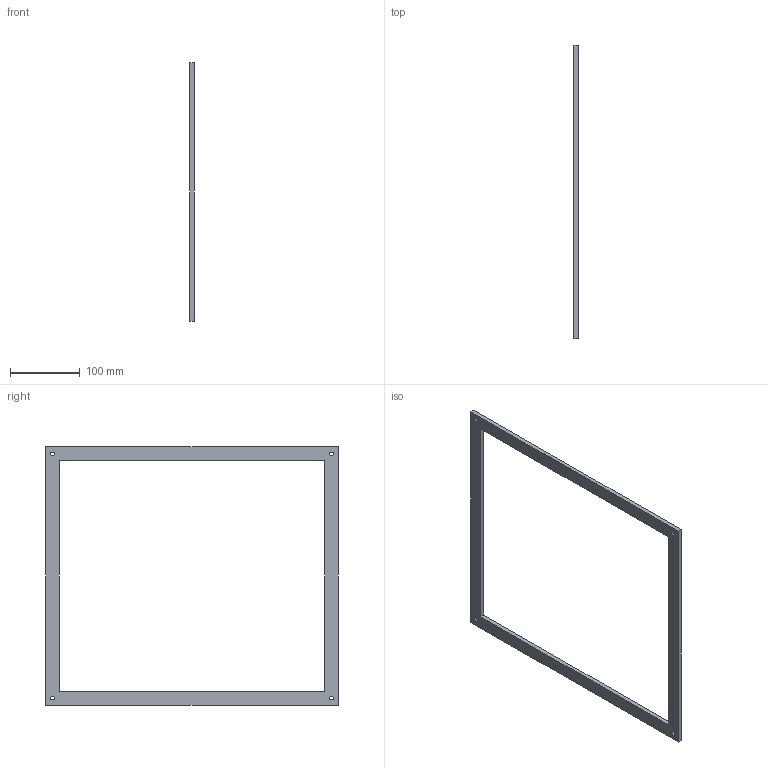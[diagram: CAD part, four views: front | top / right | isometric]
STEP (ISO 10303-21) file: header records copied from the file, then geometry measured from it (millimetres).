
FILE_DESCRIPTION(('Open CASCADE Model'),'2;1');
FILE_NAME('Open CASCADE Shape Model','2026-10-16T18:03:45',('Author'),( 'Open CASCADE'),'Open CASCADE STEP processor 7.8','Open CASCADE 7.8' ,'Unknown');
FILE_SCHEMA(('AUTOMOTIVE_DESIGN { 1 0 10303 214 1 1 1 1 }'));
Length unit declared in the file: millimetre
Products named in the file (1): Open CASCADE STEP translator 7.8 27
Bounding box: 6 x 420 x 370 mm (x, y, z)
Volume: 179429.8 mm3; surface area: 78224.6 mm2
Topology: 1 solids, 1 shells, 14 faces, 36 edges, 24 vertices
Faces by surface type: plane 10, cylinder 4
Full cylindrical faces by diameter (mm): 5.5 x4
Entity records: 950 total; most frequent: CARTESIAN_POINT 195, DIRECTION 138, LINE 92, VECTOR 92, ORIENTED_EDGE 72, PCURVE 72, DEFINITIONAL_REPRESENTATION 72, EDGE_CURVE 36
